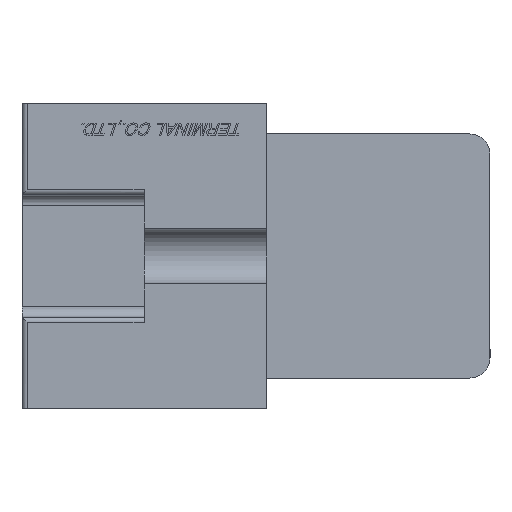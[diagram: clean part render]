
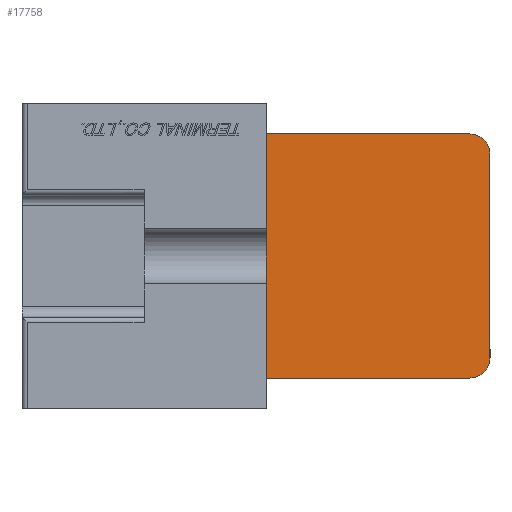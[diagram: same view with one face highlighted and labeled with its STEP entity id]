
A CAD part, left-side view. The second image highlights one B-rep face of the part: STEP entity #17758.
In plain terms, the highlighted planar face has unit normal (-1, 0, 0).
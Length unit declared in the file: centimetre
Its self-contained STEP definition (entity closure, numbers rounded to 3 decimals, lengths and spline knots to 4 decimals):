
#1131=PLANE('',#32304);
#1835=CIRCLE('',#32249,0.2);
#1837=CIRCLE('',#32253,0.2);
#3187=VERTEX_POINT('',#28103);
#3188=VERTEX_POINT('',#28105);
#3210=VERTEX_POINT('',#28252);
#3218=VERTEX_POINT('',#28271);
#3673=VERTEX_POINT('',#30253);
#3681=VERTEX_POINT('',#30339);
#4577=VECTOR('',#21034,1.);
#4602=VECTOR('',#21112,1.);
#4611=VECTOR('',#21124,1.);
#5095=VECTOR('',#21987,1.);
#5914=LINE('',#28104,#4577);
#5939=LINE('',#28253,#4602);
#5948=LINE('',#28272,#4611);
#6432=LINE('',#30338,#5095);
#8127=EDGE_CURVE('',#3187,#3188,#5914,.T.);
#8172=EDGE_CURVE('',#3210,#3187,#5939,.T.);
#8183=EDGE_CURVE('',#3210,#3218,#5948,.T.);
#8857=EDGE_CURVE('',#3188,#3673,#1835,.T.);
#8868=EDGE_CURVE('',#3681,#3673,#6432,.T.);
#8870=EDGE_CURVE('',#3681,#3218,#1837,.T.);
#13913=ORIENTED_EDGE('',*,*,#8857,.F.);
#13914=ORIENTED_EDGE('',*,*,#8127,.F.);
#13915=ORIENTED_EDGE('',*,*,#8172,.F.);
#13916=ORIENTED_EDGE('',*,*,#8183,.T.);
#13917=ORIENTED_EDGE('',*,*,#8870,.F.);
#13918=ORIENTED_EDGE('',*,*,#8868,.T.);
#15265=EDGE_LOOP('',(#13913,#13914,#13915,#13916,#13917,#13918));
#16612=FACE_BOUND('',#15265,.T.);
#17758=ADVANCED_FACE('',(#16612),#1131,.T.);
#21034=DIRECTION('',(0.,-1.,0.));
#21112=DIRECTION('',(0.,0.,1.));
#21124=DIRECTION('',(0.,-1.,0.));
#21976=DIRECTION('',(1.,0.,0.));
#21977=DIRECTION('',(0.,-0.141,0.141));
#21987=DIRECTION('',(0.,0.,1.));
#21991=DIRECTION('',(1.,0.,0.));
#21992=DIRECTION('',(0.,-0.141,-0.141));
#22099=DIRECTION('',(-1.,0.,0.));
#28103=CARTESIAN_POINT('',(-4.15,1.1,1.2));
#28104=CARTESIAN_POINT('',(-4.15,1.1,1.2));
#28105=CARTESIAN_POINT('',(-4.15,-0.9,1.2));
#28252=CARTESIAN_POINT('',(-4.15,1.1,-1.2));
#28253=CARTESIAN_POINT('',(-4.15,1.1,0.));
#28271=CARTESIAN_POINT('',(-4.15,-0.9,-1.2));
#28272=CARTESIAN_POINT('',(-4.15,1.1,-1.2));
#30252=CARTESIAN_POINT('',(-4.15,-0.9,1.));
#30253=CARTESIAN_POINT('',(-4.15,-1.1,1.));
#30338=CARTESIAN_POINT('',(-4.15,-1.1,-1.2));
#30339=CARTESIAN_POINT('',(-4.15,-1.1,-1.));
#30342=CARTESIAN_POINT('',(-4.15,-0.9,-1.));
#30435=CARTESIAN_POINT('',(-4.15,1.1,0.));
#32249=AXIS2_PLACEMENT_3D('',#30252,#21976,#21977);
#32253=AXIS2_PLACEMENT_3D('',#30342,#21991,#21992);
#32304=AXIS2_PLACEMENT_3D('',#30435,#22099,$);
